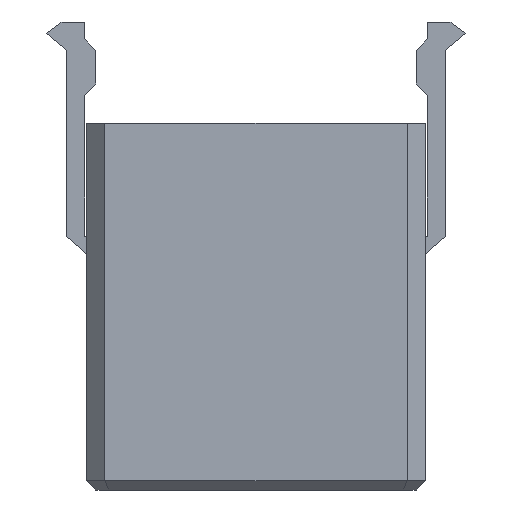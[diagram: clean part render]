
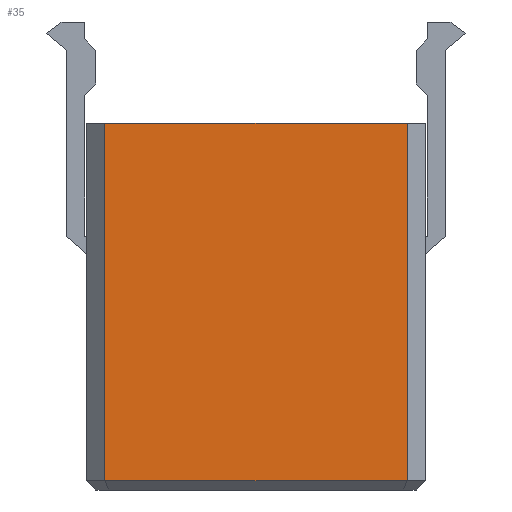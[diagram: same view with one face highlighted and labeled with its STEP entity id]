
A CAD part, left-side view. The second image highlights one B-rep face of the part: STEP entity #35.
In plain terms, the highlighted planar face has unit normal (-1, 0, 0).
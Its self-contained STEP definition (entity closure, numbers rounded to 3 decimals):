
#35 = ADVANCED_FACE('',(#36),#50,.T.);
#36 = FACE_BOUND('',#37,.T.);
#37 = EDGE_LOOP('',(#38,#73,#101,#129));
#38 = ORIENTED_EDGE('',*,*,#39,.T.);
#39 = EDGE_CURVE('',#40,#42,#44,.T.);
#40 = VERTEX_POINT('',#41);
#41 = CARTESIAN_POINT('',(-73.5,-13.4,22.));
#42 = VERTEX_POINT('',#43);
#43 = CARTESIAN_POINT('',(-73.5,-13.4,53.7));
#44 = SURFACE_CURVE('',#45,(#49,#61),.PCURVE_S1.);
#45 = LINE('',#46,#47);
#46 = CARTESIAN_POINT('',(-73.5,-13.4,22.));
#47 = VECTOR('',#48,1.);
#48 = DIRECTION('',(0.,0.,1.));
#49 = PCURVE('',#50,#55);
#50 = PLANE('',#51);
#51 = AXIS2_PLACEMENT_3D('',#52,#53,#54);
#52 = CARTESIAN_POINT('',(-73.5,-13.4,22.));
#53 = DIRECTION('',(-1.,-0.,0.));
#54 = DIRECTION('',(-0.,1.,0.));
#55 = DEFINITIONAL_REPRESENTATION('',(#56),#60);
#56 = LINE('',#57,#58);
#57 = CARTESIAN_POINT('',(0.,0.));
#58 = VECTOR('',#59,1.);
#59 = DIRECTION('',(0.,-1.));
#60 = ( GEOMETRIC_REPRESENTATION_CONTEXT(2) 
PARAMETRIC_REPRESENTATION_CONTEXT() REPRESENTATION_CONTEXT('2D SPACE',''
  ) );
#61 = PCURVE('',#62,#67);
#62 = PLANE('',#63);
#63 = AXIS2_PLACEMENT_3D('',#64,#65,#66);
#64 = CARTESIAN_POINT('',(-73.5,-13.4,22.));
#65 = DIRECTION('',(0.707,0.707,-0.));
#66 = DIRECTION('',(0.707,-0.707,0.));
#67 = DEFINITIONAL_REPRESENTATION('',(#68),#72);
#68 = LINE('',#69,#70);
#69 = CARTESIAN_POINT('',(0.,0.));
#70 = VECTOR('',#71,1.);
#71 = DIRECTION('',(0.,-1.));
#72 = ( GEOMETRIC_REPRESENTATION_CONTEXT(2) 
PARAMETRIC_REPRESENTATION_CONTEXT() REPRESENTATION_CONTEXT('2D SPACE',''
  ) );
#73 = ORIENTED_EDGE('',*,*,#74,.T.);
#74 = EDGE_CURVE('',#42,#75,#77,.T.);
#75 = VERTEX_POINT('',#76);
#76 = CARTESIAN_POINT('',(-73.5,13.4,53.7));
#77 = SURFACE_CURVE('',#78,(#82,#89),.PCURVE_S1.);
#78 = LINE('',#79,#80);
#79 = CARTESIAN_POINT('',(-73.5,-13.4,53.7));
#80 = VECTOR('',#81,1.);
#81 = DIRECTION('',(-0.,1.,0.));
#82 = PCURVE('',#50,#83);
#83 = DEFINITIONAL_REPRESENTATION('',(#84),#88);
#84 = LINE('',#85,#86);
#85 = CARTESIAN_POINT('',(0.,-31.7));
#86 = VECTOR('',#87,1.);
#87 = DIRECTION('',(1.,0.));
#88 = ( GEOMETRIC_REPRESENTATION_CONTEXT(2) 
PARAMETRIC_REPRESENTATION_CONTEXT() REPRESENTATION_CONTEXT('2D SPACE',''
  ) );
#89 = PCURVE('',#90,#95);
#90 = PLANE('',#91);
#91 = AXIS2_PLACEMENT_3D('',#92,#93,#94);
#92 = CARTESIAN_POINT('',(-73.1,-13.4,54.1));
#93 = DIRECTION('',(-0.707,0.,0.707));
#94 = DIRECTION('',(-0.,-1.,0.));
#95 = DEFINITIONAL_REPRESENTATION('',(#96),#100);
#96 = LINE('',#97,#98);
#97 = CARTESIAN_POINT('',(-0.,-0.566));
#98 = VECTOR('',#99,1.);
#99 = DIRECTION('',(-1.,0.));
#100 = ( GEOMETRIC_REPRESENTATION_CONTEXT(2) 
PARAMETRIC_REPRESENTATION_CONTEXT() REPRESENTATION_CONTEXT('2D SPACE',''
  ) );
#101 = ORIENTED_EDGE('',*,*,#102,.F.);
#102 = EDGE_CURVE('',#103,#75,#105,.T.);
#103 = VERTEX_POINT('',#104);
#104 = CARTESIAN_POINT('',(-73.5,13.4,22.));
#105 = SURFACE_CURVE('',#106,(#110,#117),.PCURVE_S1.);
#106 = LINE('',#107,#108);
#107 = CARTESIAN_POINT('',(-73.5,13.4,22.));
#108 = VECTOR('',#109,1.);
#109 = DIRECTION('',(0.,0.,1.));
#110 = PCURVE('',#50,#111);
#111 = DEFINITIONAL_REPRESENTATION('',(#112),#116);
#112 = LINE('',#113,#114);
#113 = CARTESIAN_POINT('',(26.8,0.));
#114 = VECTOR('',#115,1.);
#115 = DIRECTION('',(0.,-1.));
#116 = ( GEOMETRIC_REPRESENTATION_CONTEXT(2) 
PARAMETRIC_REPRESENTATION_CONTEXT() REPRESENTATION_CONTEXT('2D SPACE',''
  ) );
#117 = PCURVE('',#118,#123);
#118 = PLANE('',#119);
#119 = AXIS2_PLACEMENT_3D('',#120,#121,#122);
#120 = CARTESIAN_POINT('',(-73.5,13.4,22.));
#121 = DIRECTION('',(-0.707,0.707,0.));
#122 = DIRECTION('',(0.707,0.707,0.));
#123 = DEFINITIONAL_REPRESENTATION('',(#124),#128);
#124 = LINE('',#125,#126);
#125 = CARTESIAN_POINT('',(0.,0.));
#126 = VECTOR('',#127,1.);
#127 = DIRECTION('',(0.,-1.));
#128 = ( GEOMETRIC_REPRESENTATION_CONTEXT(2) 
PARAMETRIC_REPRESENTATION_CONTEXT() REPRESENTATION_CONTEXT('2D SPACE',''
  ) );
#129 = ORIENTED_EDGE('',*,*,#130,.F.);
#130 = EDGE_CURVE('',#40,#103,#131,.T.);
#131 = SURFACE_CURVE('',#132,(#136,#143),.PCURVE_S1.);
#132 = LINE('',#133,#134);
#133 = CARTESIAN_POINT('',(-73.5,0.,22.));
#134 = VECTOR('',#135,1.);
#135 = DIRECTION('',(-0.,1.,0.));
#136 = PCURVE('',#50,#137);
#137 = DEFINITIONAL_REPRESENTATION('',(#138),#142);
#138 = LINE('',#139,#140);
#139 = CARTESIAN_POINT('',(13.4,0.));
#140 = VECTOR('',#141,1.);
#141 = DIRECTION('',(1.,0.));
#142 = ( GEOMETRIC_REPRESENTATION_CONTEXT(2) 
PARAMETRIC_REPRESENTATION_CONTEXT() REPRESENTATION_CONTEXT('2D SPACE',''
  ) );
#143 = PCURVE('',#144,#149);
#144 = PLANE('',#145);
#145 = AXIS2_PLACEMENT_3D('',#146,#147,#148);
#146 = CARTESIAN_POINT('',(0.,0.,22.));
#147 = DIRECTION('',(0.,0.,1.));
#148 = DIRECTION('',(1.,0.,-0.));
#149 = DEFINITIONAL_REPRESENTATION('',(#150),#154);
#150 = LINE('',#151,#152);
#151 = CARTESIAN_POINT('',(-73.5,0.));
#152 = VECTOR('',#153,1.);
#153 = DIRECTION('',(0.,1.));
#154 = ( GEOMETRIC_REPRESENTATION_CONTEXT(2) 
PARAMETRIC_REPRESENTATION_CONTEXT() REPRESENTATION_CONTEXT('2D SPACE',''
  ) );
